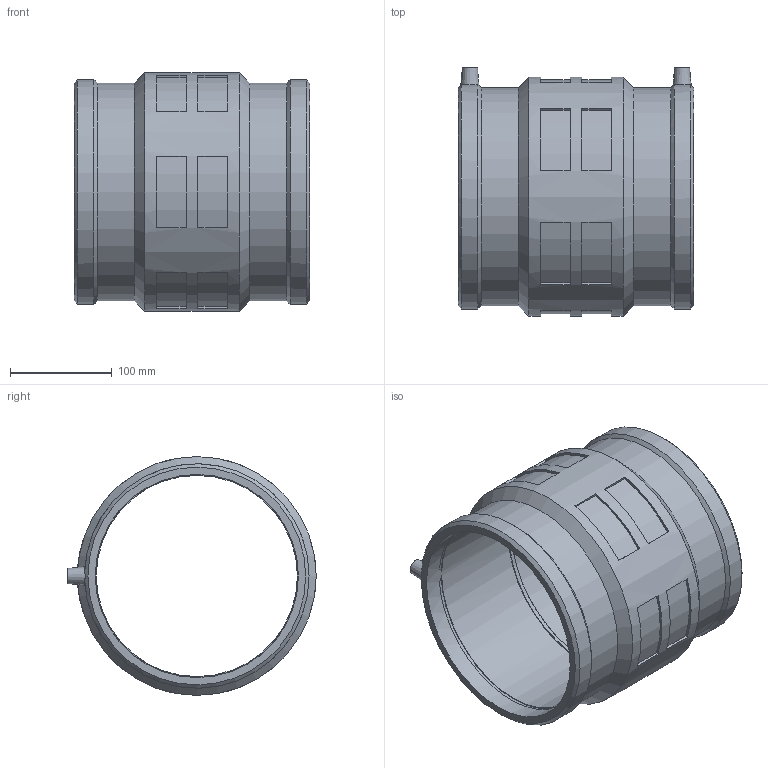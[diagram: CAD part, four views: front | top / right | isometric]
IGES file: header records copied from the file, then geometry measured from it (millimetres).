
Global section: file name: 460104200.ipt; native system: Autodesk Inventor 2015; preprocessor: unknown; author: KIM; date: 20171106.093419; units: millimetre
Bounding box: 232 x 244.5 x 235 mm (x, y, z)
Volume: 1866883.9 mm3; surface area: 338758 mm2
Topology: 1 solids, 1 shells, 98 faces, 240 edges, 160 vertices
Faces by surface type: plane 60, cylinder 19, cone 12, revolution 7
Full cylindrical faces by diameter (mm): 4 x2, 214.273 x2, 235 x1
